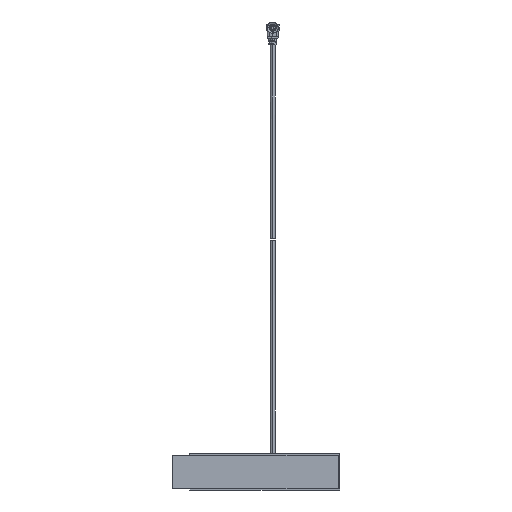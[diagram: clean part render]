
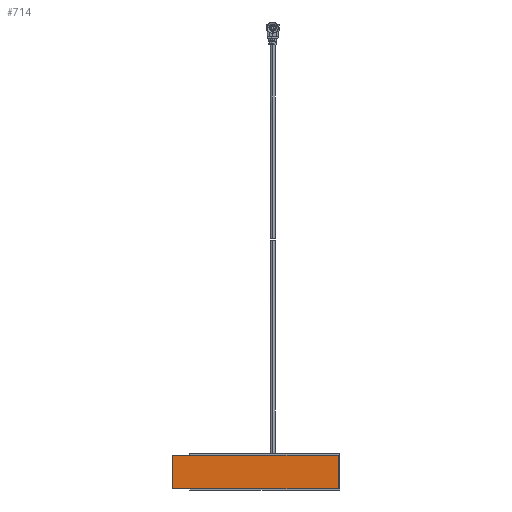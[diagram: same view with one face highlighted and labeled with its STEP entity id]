
A CAD part, front view. The second image highlights one B-rep face of the part: STEP entity #714.
In plain terms, the highlighted planar face has unit normal (0, -1, 0).
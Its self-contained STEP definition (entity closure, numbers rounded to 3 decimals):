
#207=DIRECTION('',(0.,0.,-1.));
#208=VECTOR('',#207,7.9);
#209=CARTESIAN_POINT('',(34.9,-0.23,8.2));
#210=LINE('',#209,#208);
#219=DIRECTION('',(-1.,0.,0.));
#220=VECTOR('',#219,38.9);
#221=CARTESIAN_POINT('',(34.9,-0.23,0.3));
#222=LINE('',#221,#220);
#239=DIRECTION('',(1.,0.,0.));
#240=VECTOR('',#239,38.9);
#241=CARTESIAN_POINT('',(-4.,-0.23,8.2));
#242=LINE('',#241,#240);
#243=DIRECTION('',(0.,0.,1.));
#244=VECTOR('',#243,7.9);
#245=CARTESIAN_POINT('',(-4.,-0.23,0.3));
#246=LINE('',#245,#244);
#279=CARTESIAN_POINT('',(34.9,-0.23,8.2));
#280=CARTESIAN_POINT('',(34.9,-0.23,0.3));
#281=VERTEX_POINT('',#279);
#282=VERTEX_POINT('',#280);
#283=CARTESIAN_POINT('',(-4.,-0.23,8.2));
#284=VERTEX_POINT('',#283);
#285=CARTESIAN_POINT('',(-4.,-0.23,0.3));
#286=VERTEX_POINT('',#285);
#702=CARTESIAN_POINT('',(15.45,-0.23,4.25));
#703=DIRECTION('',(0.,1.,0.));
#704=DIRECTION('',(0.,0.,-1.));
#705=AXIS2_PLACEMENT_3D('',#702,#703,#704);
#706=PLANE('',#705);
#707=ORIENTED_EDGE('',*,*,#646,.T.);
#708=ORIENTED_EDGE('',*,*,#665,.T.);
#710=ORIENTED_EDGE('',*,*,#709,.T.);
#711=ORIENTED_EDGE('',*,*,#692,.T.);
#712=EDGE_LOOP('',(#707,#708,#710,#711));
#713=FACE_OUTER_BOUND('',#712,.F.);
#714=ADVANCED_FACE('',(#713),#706,.F.);
#646=EDGE_CURVE('',#281,#282,#210,.T.);
#665=EDGE_CURVE('',#282,#286,#222,.T.);
#692=EDGE_CURVE('',#284,#281,#242,.T.);
#709=EDGE_CURVE('',#286,#284,#246,.T.);
